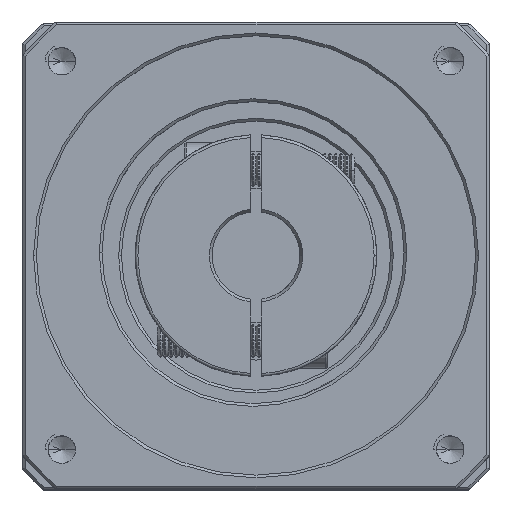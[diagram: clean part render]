
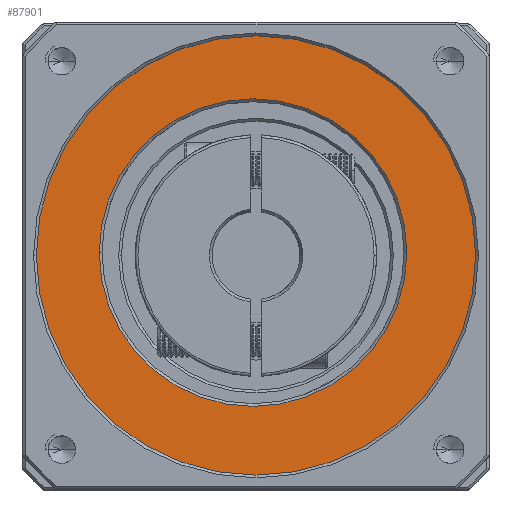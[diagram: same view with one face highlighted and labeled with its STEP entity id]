
A CAD part, top view. The second image highlights one B-rep face of the part: STEP entity #87901.
In plain terms, the highlighted planar face has unit normal (0, 0, 1).
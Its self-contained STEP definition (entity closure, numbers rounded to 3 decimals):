
#2626 = DIRECTION ( 'NONE',  ( 1., 0., 0. ) ) ;
#2641 = DIRECTION ( 'NONE',  ( 0., 0., -1. ) ) ;
#2757 = CARTESIAN_POINT ( 'NONE',  ( -89.435, 24.89, 6.287 ) ) ;
#5874 = EDGE_CURVE ( 'NONE', #83463, #72643, #7474, .T. ) ;
#7080 = EDGE_CURVE ( 'NONE', #23405, #18932, #13464, .T. ) ;
#7474 = CIRCLE ( 'NONE', #102743, 40. ) ;
#12183 = CARTESIAN_POINT ( 'NONE',  ( -128.893, 24.356, 6.287 ) ) ;
#12580 = DIRECTION ( 'NONE',  ( 1., 0., 0. ) ) ;
#12660 = DIRECTION ( 'NONE',  ( 0., 0., -1. ) ) ;
#12939 = DIRECTION ( 'NONE',  ( 0., 0., 1. ) ) ;
#13303 = CARTESIAN_POINT ( 'NONE',  ( -88.893, 24.356, 6.287 ) ) ;
#13464 = CIRCLE ( 'NONE', #47948, 28. ) ;
#18932 = VERTEX_POINT ( 'NONE', #22695 ) ;
#22695 = CARTESIAN_POINT ( 'NONE',  ( -61.435, 24.89, 6.287 ) ) ;
#23405 = VERTEX_POINT ( 'NONE', #42050 ) ;
#27495 = DIRECTION ( 'NONE',  ( 0., 0., 1. ) ) ;
#27701 = EDGE_CURVE ( 'NONE', #18932, #23405, #54556, .T. ) ;
#33036 = ORIENTED_EDGE ( 'NONE', *, *, #5874, .T. ) ;
#35363 = FACE_BOUND ( 'NONE', #97552, .T. ) ;
#39435 = ORIENTED_EDGE ( 'NONE', *, *, #100878, .T. ) ;
#42050 = CARTESIAN_POINT ( 'NONE',  ( -117.435, 24.89, 6.287 ) ) ;
#42851 = DIRECTION ( 'NONE',  ( 0., 0., 1. ) ) ;
#44158 = PLANE ( 'NONE',  #86503 ) ;
#47948 = AXIS2_PLACEMENT_3D ( 'NONE', #50759, #12660, #74801 ) ;
#50759 = CARTESIAN_POINT ( 'NONE',  ( -89.435, 24.89, 6.287 ) ) ;
#54100 = ORIENTED_EDGE ( 'NONE', *, *, #27701, .T. ) ;
#54305 = ORIENTED_EDGE ( 'NONE', *, *, #7080, .T. ) ;
#54556 = CIRCLE ( 'NONE', #65802, 28. ) ;
#56172 = AXIS2_PLACEMENT_3D ( 'NONE', #93614, #42851, #102108 ) ;
#65802 = AXIS2_PLACEMENT_3D ( 'NONE', #2757, #2641, #2626 ) ;
#70551 = CARTESIAN_POINT ( 'NONE',  ( -48.893, 24.356, 6.287 ) ) ;
#71442 = CIRCLE ( 'NONE', #56172, 40. ) ;
#72643 = VERTEX_POINT ( 'NONE', #12183 ) ;
#74801 = DIRECTION ( 'NONE',  ( 1., 0., 0. ) ) ;
#78418 = CARTESIAN_POINT ( 'NONE',  ( -88.893, 24.356, 6.287 ) ) ;
#80623 = FACE_OUTER_BOUND ( 'NONE', #84036, .T. ) ;
#83463 = VERTEX_POINT ( 'NONE', #70551 ) ;
#84036 = EDGE_LOOP ( 'NONE', ( #33036, #39435 ) ) ;
#86503 = AXIS2_PLACEMENT_3D ( 'NONE', #78418, #27495, #86863 ) ;
#86863 = DIRECTION ( 'NONE',  ( 1., 0., 0. ) ) ;
#87901 = ADVANCED_FACE ( 'NONE', ( #80623, #35363 ), #44158, .T. ) ;
#93614 = CARTESIAN_POINT ( 'NONE',  ( -88.893, 24.356, 6.287 ) ) ;
#97552 = EDGE_LOOP ( 'NONE', ( #54100, #54305 ) ) ;
#100878 = EDGE_CURVE ( 'NONE', #72643, #83463, #71442, .T. ) ;
#102108 = DIRECTION ( 'NONE',  ( 1., 0., 0. ) ) ;
#102743 = AXIS2_PLACEMENT_3D ( 'NONE', #13303, #12939, #12580 ) ;
